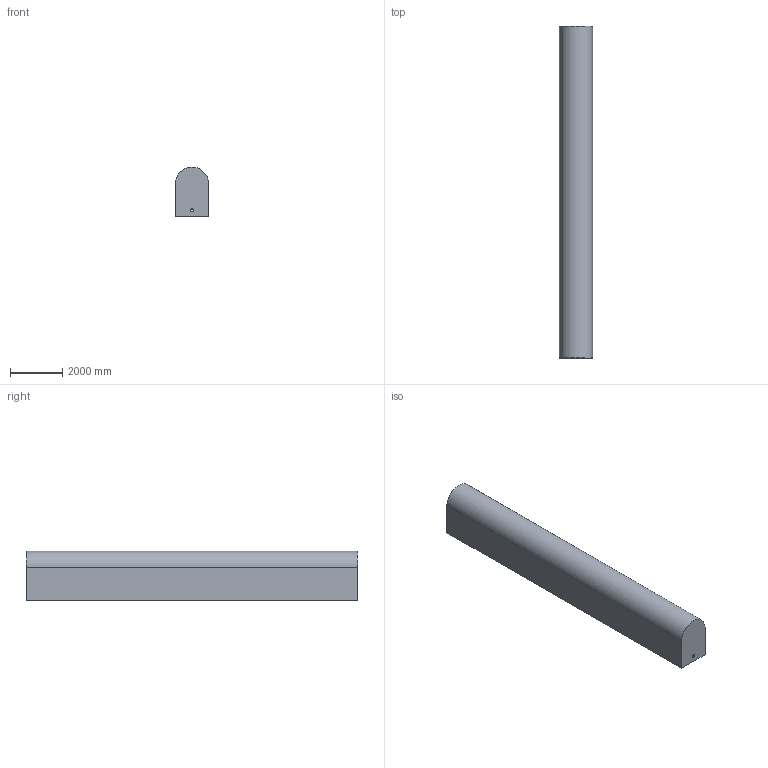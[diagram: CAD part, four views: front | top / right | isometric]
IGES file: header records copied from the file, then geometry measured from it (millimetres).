
Global section: file name: Luminara Alabaster Wall Sconce-H 19.7″,4; native system: 8HAutoCAD 2022 - 简体中文 (Simplified Chinese); preprocessor: Autodesk Translation Framework DWG producer (atf_dwg_producer); organization: unknown; date: 20251001.164519; units: inch
Bounding box: 1270 x 12700 x 1904.96 mm (x, y, z)
Volume: 14550647213.6 mm3; surface area: 157300218.5 mm2
Topology: 2 solids, 2 shells, 26 faces, 60 edges, 40 vertices
Faces by surface type: bspline 26
